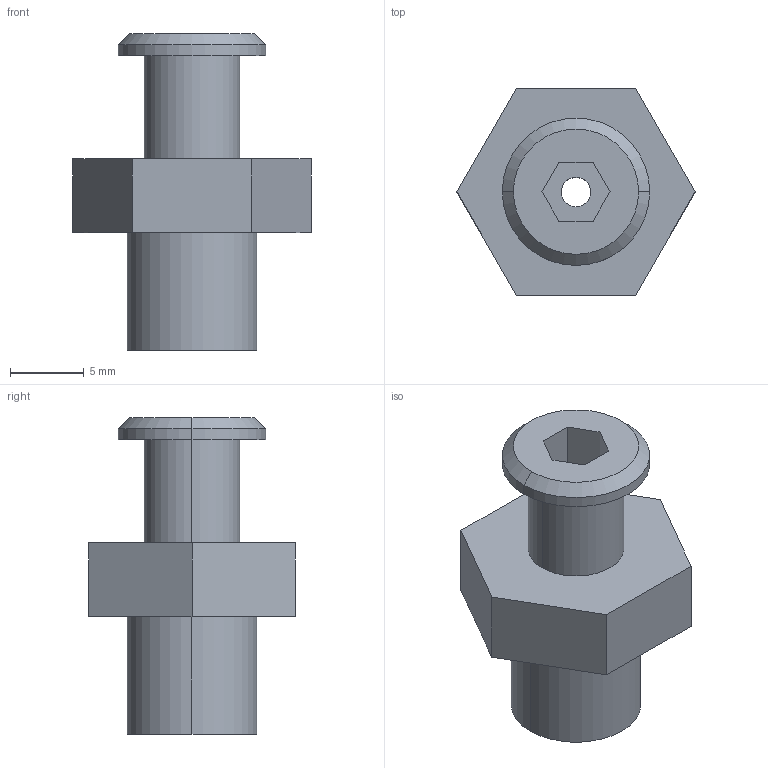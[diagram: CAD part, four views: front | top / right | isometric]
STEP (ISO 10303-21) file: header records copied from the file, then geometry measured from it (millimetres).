
FILE_DESCRIPTION (( 'STEP AP214' ), '1' );
FILE_NAME ('VM36-G18.STEP', '2023-03-07T08:38:52', ( 'Windows User' ), ( 'P R C' ), 'SwSTEP 2.0', 'SolidWorks 2019', '' );
FILE_SCHEMA (( 'AUTOMOTIVE_DESIGN' ));
Length unit declared in the file: millimetre
Products named in the file (1): VM36-G18
Bounding box: 16.17 x 14 x 21.5 mm (x, y, z)
Volume: 1502.3 mm3; surface area: 1273.9 mm2
Topology: 1 solids, 1 shells, 28 faces, 64 edges, 42 vertices
Faces by surface type: plane 18, cylinder 8, cone 2
Entity records: 828 total; most frequent: DIRECTION 140, CARTESIAN_POINT 135, ORIENTED_EDGE 128, EDGE_CURVE 64, AXIS2_PLACEMENT_3D 47, LINE 46, VECTOR 46, VERTEX_POINT 42
